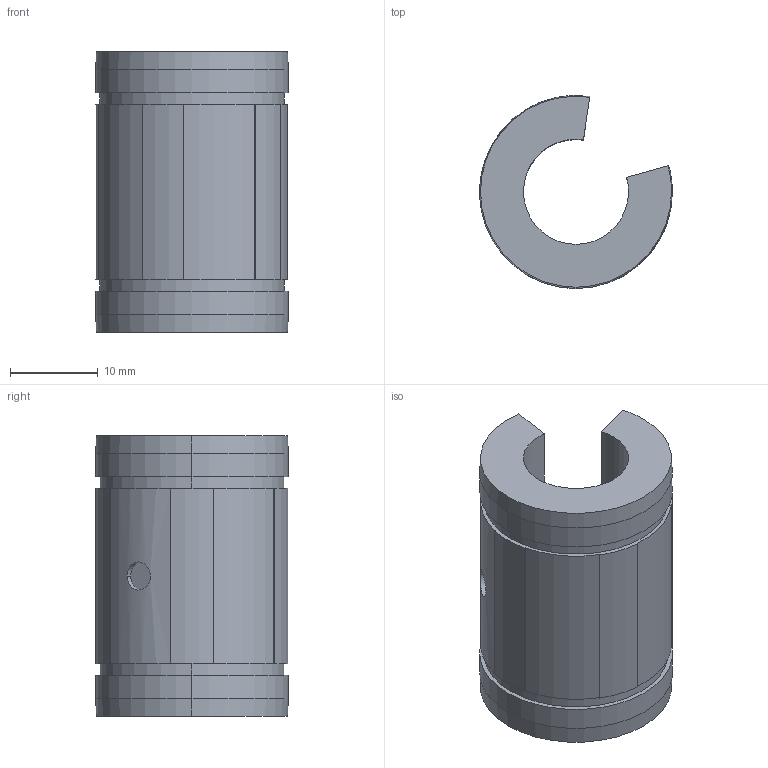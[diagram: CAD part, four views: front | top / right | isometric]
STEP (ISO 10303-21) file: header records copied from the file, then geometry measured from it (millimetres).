
FILE_DESCRIPTION((''),'2;1');
FILE_NAME('C:\Documents and Settings\ｿﾀﾀ蠑ｷ1\ｹﾙﾅﾁ ﾈｭｸ饅\ｺﾎﾇｰﾆﾄﾀﾏ\ﾁｦﾇｰ\LMES__UUOP\LMES12UUOP.stp','2005-06-15T14:07:00',('ｿﾀﾀ蠑ｷ1'),(''),'Autodesk Inventor 9','Autodesk Inventor 9','');
FILE_SCHEMA(('AUTOMOTIVE_DESIGN { 1 0 10303 214 1 1 1 1 }'));
Length unit declared in the file: millimetre
Products named in the file (1): LMES__OP
Bounding box: 22 x 22 x 32 mm (x, y, z)
Volume: 6813.8 mm3; surface area: 3638.1 mm2
Topology: 1 solids, 1 shells, 50 faces, 137 edges, 90 vertices
Faces by surface type: cylinder 27, plane 17, cone 6
Entity records: 1660 total; most frequent: CARTESIAN_POINT 312, DIRECTION 295, ORIENTED_EDGE 274, EDGE_CURVE 137, AXIS2_PLACEMENT_3D 109, VERTEX_POINT 90, VECTOR 77, LINE 77
